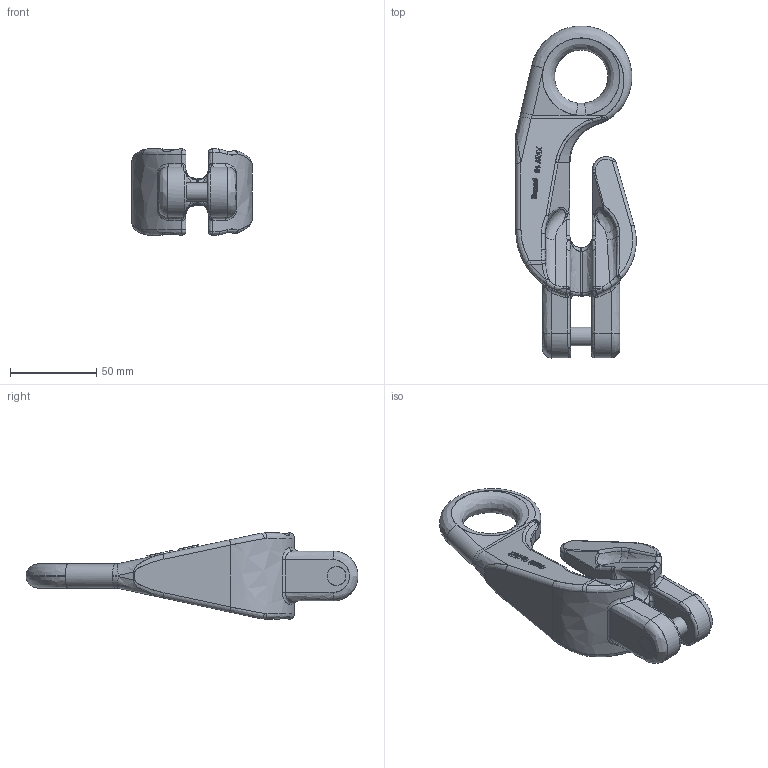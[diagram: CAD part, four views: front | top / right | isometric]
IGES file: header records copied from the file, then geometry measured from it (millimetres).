
Global section: file name: C:\Users\zer\Desktop\Plot\XKW 10 Kundenmodell.igs; native system: NX V9.0; preprocessor: SIEMENS PLM Software NX 9.0; date: 20160202.134541; units: millimetre
Bounding box: 70 x 192.94 x 50 mm (x, y, z)
Surface area: 35790.3 mm2 (no closed solid volume)
Topology: 0 solids, 0 shells, 487 faces, 2678 edges, 2648 vertices
Faces by surface type: bspline 487
